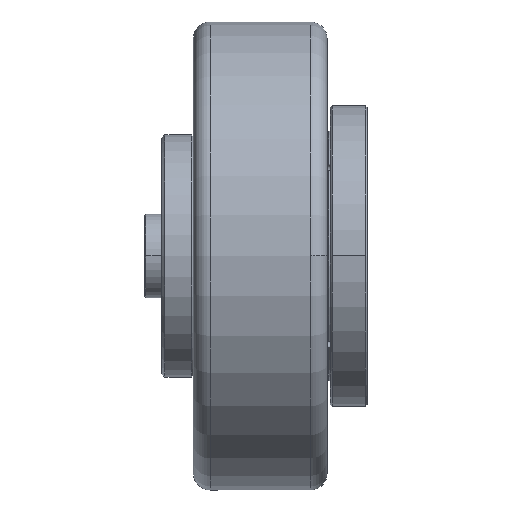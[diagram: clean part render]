
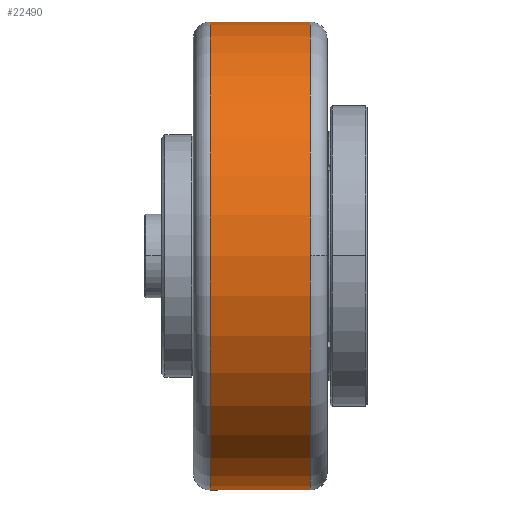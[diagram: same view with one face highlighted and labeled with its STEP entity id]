
A CAD part, top view. The second image highlights one B-rep face of the part: STEP entity #22490.
In plain terms, the highlighted cylindrical face has radius 140 mm (diameter 280 mm), a partial arc.
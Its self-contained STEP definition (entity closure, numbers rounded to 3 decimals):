
#2475 = DIRECTION ( 'NONE',  ( -1., 0., 0. ) ) ;
#2737 = LINE ( 'NONE', #42421, #36988 ) ;
#4767 = EDGE_CURVE ( 'NONE', #48395, #33322, #2737, .T. ) ;
#5494 = AXIS2_PLACEMENT_3D ( 'NONE', #47819, #28197, #15885 ) ;
#6157 = ORIENTED_EDGE ( 'NONE', *, *, #44857, .T. ) ;
#6439 = CARTESIAN_POINT ( 'NONE',  ( -960., 1156.841, 0.078 ) ) ;
#12839 = AXIS2_PLACEMENT_3D ( 'NONE', #15742, #46648, #50588 ) ;
#13605 = VERTEX_POINT ( 'NONE', #47776 ) ;
#14698 = ORIENTED_EDGE ( 'NONE', *, *, #4767, .T. ) ;
#15389 = DIRECTION ( 'NONE',  ( 1., 0., 0. ) ) ;
#15742 = CARTESIAN_POINT ( 'NONE',  ( -970., 1296.841, 0.078 ) ) ;
#15885 = DIRECTION ( 'NONE',  ( 0., -1., 0. ) ) ;
#16144 = CIRCLE ( 'NONE', #17207, 140. ) ;
#16549 = CARTESIAN_POINT ( 'NONE',  ( -1030., 1436.841, 0.078 ) ) ;
#17207 = AXIS2_PLACEMENT_3D ( 'NONE', #38914, #15389, #30923 ) ;
#17539 = DIRECTION ( 'NONE',  ( -1., 0., 0. ) ) ;
#18456 = CYLINDRICAL_SURFACE ( 'NONE', #20615, 140. ) ;
#19648 = VERTEX_POINT ( 'NONE', #44311 ) ;
#20615 = AXIS2_PLACEMENT_3D ( 'NONE', #33242, #17539, #21329 ) ;
#21329 = DIRECTION ( 'NONE',  ( 0., -1., 0. ) ) ;
#22490 = ADVANCED_FACE ( 'NONE', ( #28864 ), #18456, .T. ) ;
#23132 = EDGE_CURVE ( 'NONE', #25168, #13605, #34050, .T. ) ;
#25168 = VERTEX_POINT ( 'NONE', #32465 ) ;
#26241 = DIRECTION ( 'NONE',  ( -1., 0., 0. ) ) ;
#28197 = DIRECTION ( 'NONE',  ( -1., 0., 0. ) ) ;
#28864 = FACE_OUTER_BOUND ( 'NONE', #32836, .T. ) ;
#29367 = ORIENTED_EDGE ( 'NONE', *, *, #46364, .T. ) ;
#30003 = CIRCLE ( 'NONE', #5494, 140. ) ;
#30923 = DIRECTION ( 'NONE',  ( 0., -1., 0. ) ) ;
#32465 = CARTESIAN_POINT ( 'NONE',  ( -970., 1156.841, 0.078 ) ) ;
#32836 = EDGE_LOOP ( 'NONE', ( #45647, #14698, #29367, #41322, #6157 ) ) ;
#33242 = CARTESIAN_POINT ( 'NONE',  ( -960., 1296.841, 0.078 ) ) ;
#33322 = VERTEX_POINT ( 'NONE', #16549 ) ;
#34050 = LINE ( 'NONE', #6439, #46846 ) ;
#34363 = CARTESIAN_POINT ( 'NONE',  ( -970., 1436.841, 0.078 ) ) ;
#36988 = VECTOR ( 'NONE', #26241, 1000. ) ;
#38914 = CARTESIAN_POINT ( 'NONE',  ( -1030., 1296.841, 0.078 ) ) ;
#41322 = ORIENTED_EDGE ( 'NONE', *, *, #23132, .F. ) ;
#42421 = CARTESIAN_POINT ( 'NONE',  ( -960., 1436.841, 0.078 ) ) ;
#44169 = CIRCLE ( 'NONE', #12839, 140. ) ;
#44311 = CARTESIAN_POINT ( 'NONE',  ( -970., 1296.841, 140.078 ) ) ;
#44857 = EDGE_CURVE ( 'NONE', #25168, #19648, #44169, .T. ) ;
#45647 = ORIENTED_EDGE ( 'NONE', *, *, #49785, .T. ) ;
#46364 = EDGE_CURVE ( 'NONE', #33322, #13605, #16144, .T. ) ;
#46648 = DIRECTION ( 'NONE',  ( -1., 0., 0. ) ) ;
#46846 = VECTOR ( 'NONE', #2475, 1000. ) ;
#47776 = CARTESIAN_POINT ( 'NONE',  ( -1030., 1156.841, 0.078 ) ) ;
#47819 = CARTESIAN_POINT ( 'NONE',  ( -970., 1296.841, 0.078 ) ) ;
#48395 = VERTEX_POINT ( 'NONE', #34363 ) ;
#49785 = EDGE_CURVE ( 'NONE', #19648, #48395, #30003, .T. ) ;
#50588 = DIRECTION ( 'NONE',  ( 0., -1., 0. ) ) ;
